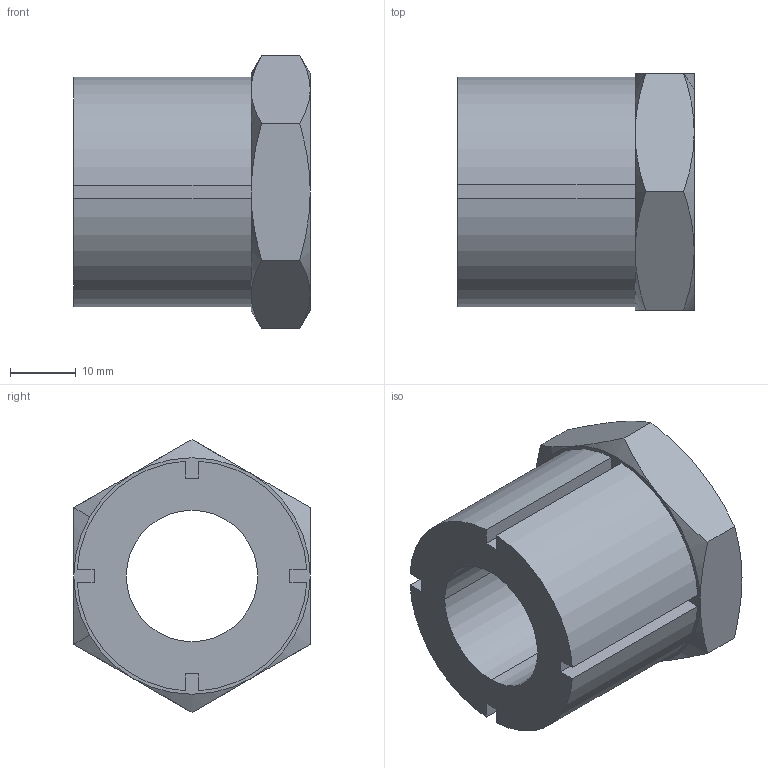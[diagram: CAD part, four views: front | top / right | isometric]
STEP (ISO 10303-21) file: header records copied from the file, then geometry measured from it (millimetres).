
FILE_DESCRIPTION((''),'2;1');
FILE_NAME('C:\WIXROYD\Positioning\3840\3840W020.stp','2003-01-09T15:39:12',('Administrator'),(''),'Autodesk Inventor (tm) 5.0','Autodesk Inventor (tm) 5.0','');
FILE_SCHEMA(('CONFIG_CONTROL_DESIGN'));
Length unit declared in the file: millimetre
Products named in the file (1): 3840W020
Bounding box: 36 x 36 x 41.57 mm (x, y, z)
Volume: 24080 mm3; surface area: 8419 mm2
Topology: 1 solids, 1 shells, 45 faces, 110 edges, 68 vertices
Faces by surface type: plane 21, cone 16, cylinder 8
Entity records: 1383 total; most frequent: CARTESIAN_POINT 272, ORIENTED_EDGE 220, DIRECTION 210, EDGE_CURVE 110, AXIS2_PLACEMENT_3D 78, VERTEX_POINT 68, VECTOR 54, LINE 54
